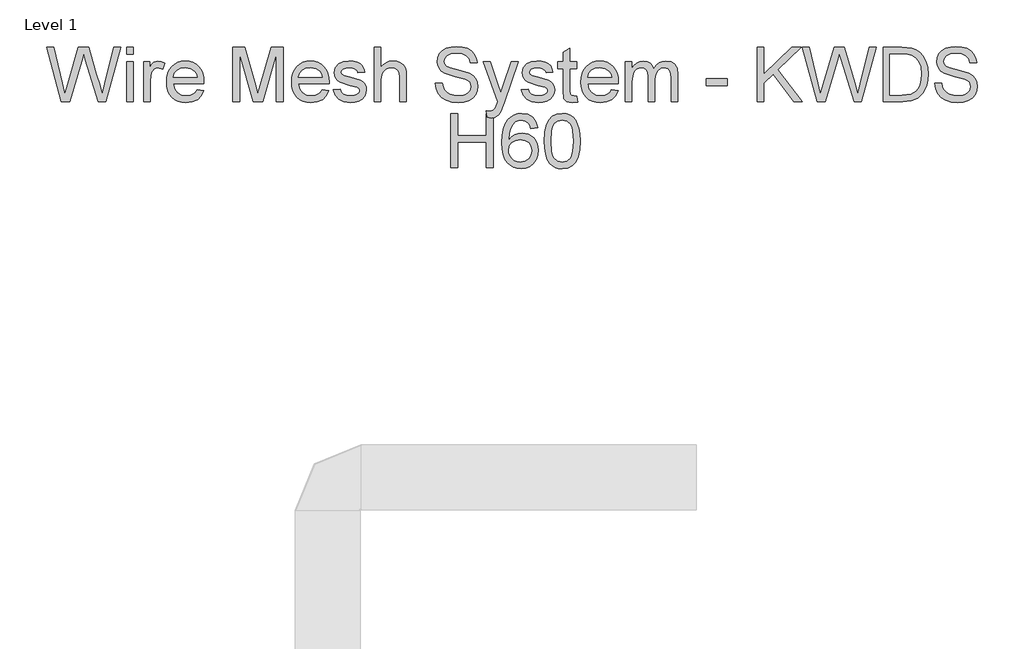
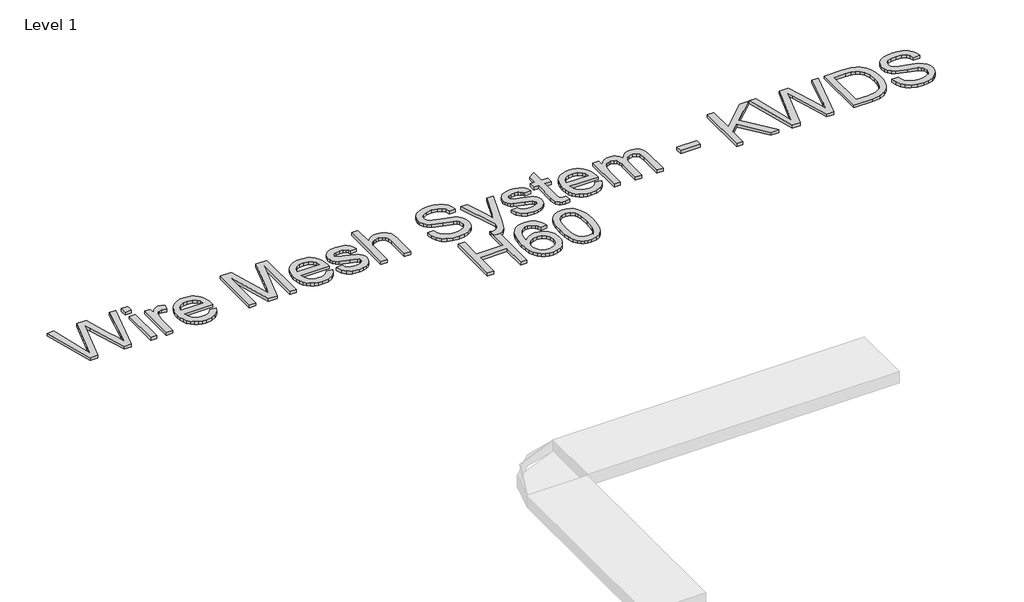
# One storey, part 24 of 32: 1 proxy.
"""IFC4 building model written with IfcOpenShell, lengths in millimetres."""

from ifc_helpers import new_model, si_unit, origin, origin_with_axes, place, context, project, spatial, polyline, outline, extrude, element, save

model = new_model("IFC4")

# Units and contexts
model_context = context("Model", 3, world=origin())
ifc_project = project(units=[si_unit("LENGTHUNIT", "METRE", prefix="MILLI")], contexts=[model_context])

# Site, building, storey
site = spatial("IfcSite", under=ifc_project)
building = spatial("IfcBuilding", under=site)
storey = spatial("IfcBuildingStorey", under=building, Name="Level 1", Elevation=0.0)

# Proxy
placement = place(None, origin())
element("IfcBuildingElementProxy", 1, Name="250mm Arial 3", ObjectType="250mm Arial 3", at=placement, inside=storey, context=model_context, shape_type="SweptSolid", body=[
    extrude(outline(polyline([(11041.5946538, 44003.1379564), (10973.107289, 44254.2787318), (11005.4809046, 44254.2787318), (11045.2121601, 44089.2223433), (11057.4748933, 44038.2706869), (11070.5960178, 44083.3362313), (11120.3827145, 44254.2787318), (11167.0424142, 44254.2787318), (11203.217477, 44130.3638131), (11218.7145061, 44084.3785637), (11230.1341763, 44038.2706869), (11242.0290275, 44087.7508153), (11282.128165, 44254.2787318), (11314.5017806, 44254.2787318), (11245.9531021, 44003.1379564), (11212.4145269, 44003.1379564), (11152.204507, 44196.8891405), (11143.8045348, 44223.9284672), (11134.3622303, 44191.3709106), (11079.4864993, 44003.1379564), (11041.5946538, 44003.1379564)])), origin_with_axes(), (0.0, 0.0, 1.0), 15.0),
    extrude(outline(polyline([(11341.9703029, 44222.8861348), (11341.9703029, 44254.2787318), (11373.3628998, 44254.2787318), (11373.3628998, 44222.8861348), (11341.9703029, 44222.8861348)])), origin_with_axes(), (0.0, 0.0, 1.0), 15.0),
    extrude(outline(polyline([(11341.9703029, 44003.1379564), (11341.9703029, 44187.5694633), (11373.3628998, 44187.5694633), (11373.3628998, 44003.1379564), (11341.9703029, 44003.1379564)])), origin_with_axes(), (0.0, 0.0, 1.0), 15.0),
    extrude(outline(polyline([(11420.4517952, 44003.1379564), (11420.4517952, 44187.5694633), (11447.9203175, 44187.5694633), (11447.9203175, 44160.284882), (11458.0677292, 44176.1038078), (11467.4180632, 44185.423485), (11487.0384363, 44191.4935379), (11502.6734211, 44189.0716481), (11518.5536606, 44181.8059787), (11508.0690237, 44153.6630061), (11485.996104, 44160.100941), (11476.6227773, 44158.5527709), (11468.2457977, 44153.9082608), (11456.9334264, 44136.7404343), (11451.8443921, 44100.0748621), (11451.8443921, 44003.1379564), (11420.4517952, 44003.1379564)])), origin_with_axes(), (0.0, 0.0, 1.0), 15.0),
    extrude(outline(polyline([(11667.3006139, 44058.075001), (11698.0800742, 44054.1509264), (11686.9899649, 44030.9590323), (11669.2933081, 44013.6225933), (11645.3886426, 44002.8160597), (11615.6745073, 43999.2138818), (11596.1959221, 44000.7678), (11578.8403225, 44005.4295547), (11563.6077087, 44013.1991458), (11550.4980805, 44024.0765733), (11539.9559621, 44037.759101), (11532.4258775, 44053.9439928), (11527.9078267, 44072.6312485), (11526.4018098, 44093.8208682), (11527.9231551, 44115.7290074), (11532.4871911, 44135.0389801), (11540.0939178, 44151.7507861), (11550.7433351, 44165.8644256), (11563.8184744, 44177.0771622), (11578.7023668, 44185.0862598), (11595.3950123, 44189.8917184), (11613.896411, 44191.4935379), (11631.8019175, 44189.8955505), (11647.9944734, 44185.1015883), (11662.4740788, 44177.1116512), (11675.2407337, 44165.9257393), (11685.6621408, 44151.8427566), (11693.1060031, 44135.1616074), (11697.5723204, 44115.8822916), (11699.0610929, 44094.0048092), (11698.8771519, 44085.5435233), (11557.7944067, 44085.5435233), (11563.2283304, 44062.0450609), (11575.8512813, 44044.7699355), (11594.0691043, 44034.1473429), (11616.2876439, 44030.6064787), (11632.9956179, 44032.2466193), (11647.0671042, 44037.1670409), (11658.5021029, 44045.6743121), (11667.3006139, 44058.075001)]), holes=[polyline([(11557.7944067, 44116.9361202), (11667.6684959, 44116.9361202), (11663.4225246, 44133.5214669), (11655.0991944, 44145.3856612), (11636.7970652, 44156.4221211), (11613.7737836, 44160.100941), (11592.6129047, 44157.1655493), (11575.1155173, 44148.359374), (11562.9524189, 44134.632777), (11557.7944067, 44116.9361202)])]), origin_with_axes(), (0.0, 0.0, 1.0), 15.0),
    extrude(outline(polyline([(11832.4796298, 44003.1379564), (11832.4796298, 44254.2787318), (11886.4969694, 44254.2787318), (11937.8778214, 44077.2661784), (11948.2398309, 44040.2940379), (11959.4602318, 44080.3318617), (12009.9826925, 44254.2787318), (12064.0000321, 44254.2787318), (12064.0000321, 44003.1379564), (12032.6074352, 44003.1379564), (12032.6074352, 44222.8861348), (11969.515673, 44003.1379564), (11926.9639889, 44003.1379564), (11863.8722267, 44222.8861348), (11863.8722267, 44003.1379564), (11832.4796298, 44003.1379564)])), origin_with_axes(), (0.0, 0.0, 1.0), 15.0),
    extrude(outline(polyline([(12244.1395824, 44058.075001), (12274.9190426, 44054.1509264), (12263.8289333, 44030.9590323), (12246.1322765, 44013.6225933), (12222.227611, 44002.8160597), (12192.5134757, 43999.2138818), (12173.0348905, 44000.7678), (12155.679291, 44005.4295547), (12140.4466771, 44013.1991458), (12127.3370489, 44024.0765733), (12116.7949305, 44037.759101), (12109.2648459, 44053.9439928), (12104.7467951, 44072.6312485), (12103.2407782, 44093.8208682), (12104.7621236, 44115.7290074), (12109.3261596, 44135.0389801), (12116.9328862, 44151.7507861), (12127.5823036, 44165.8644256), (12140.6574428, 44177.0771622), (12155.5413352, 44185.0862598), (12172.2339807, 44189.8917184), (12190.7353794, 44191.4935379), (12208.6408859, 44189.8955505), (12224.8334418, 44185.1015883), (12239.3130472, 44177.1116512), (12252.0797021, 44165.9257393), (12262.5011093, 44151.8427566), (12269.9449715, 44135.1616074), (12274.4112889, 44115.8822916), (12275.9000613, 44094.0048092), (12275.7161203, 44085.5435233), (12134.6333752, 44085.5435233), (12140.0672988, 44062.0450609), (12152.6902497, 44044.7699355), (12170.9080727, 44034.1473429), (12193.1266124, 44030.6064787), (12209.8345863, 44032.2466193), (12223.9060726, 44037.1670409), (12235.3410713, 44045.6743121), (12244.1395824, 44058.075001)]), holes=[polyline([(12134.6333752, 44116.9361202), (12244.5074644, 44116.9361202), (12240.261493, 44133.5214669), (12231.9381629, 44145.3856612), (12213.6360336, 44156.4221211), (12190.6127521, 44160.100941), (12169.4518732, 44157.1655493), (12151.9544858, 44148.359374), (12139.7913873, 44134.632777), (12134.6333752, 44116.9361202)])]), origin_with_axes(), (0.0, 0.0, 1.0), 15.0),
    extrude(outline(polyline([(12295.5204344, 44058.075001), (12326.9130313, 44061.9990756), (12331.8641098, 44048.5713828), (12341.4443701, 44038.6998826), (12355.7151258, 44032.6298297), (12374.7376907, 44030.6064787), (12393.5303293, 44032.4612171), (12406.7434243, 44038.0254323), (12414.5609166, 44046.0881793), (12417.1667474, 44055.4385134), (12414.5455882, 44063.4399468), (12406.6821106, 44069.5406565), (12374.3698087, 44078.4924517), (12327.0969723, 44093.851525), (12315.1331432, 44101.5693827), (12306.4649237, 44111.7857723), (12301.1996127, 44123.8492361), (12299.444509, 44137.1083163), (12305.0853663, 44160.4994798), (12320.4750964, 44178.3724134), (12340.4326946, 44187.6614338), (12367.4413644, 44191.4935379), (12387.8741436, 44189.9530321), (12405.6397783, 44185.3315145), (12419.9258624, 44178.0811735), (12429.9199899, 44168.6541974), (12436.5418659, 44156.3531432), (12440.7111951, 44140.4805679), (12409.3185982, 44136.5564933), (12405.3562026, 44146.4356577), (12397.5157175, 44153.8776039), (12385.7205011, 44158.5451067), (12369.8939111, 44160.100941), (12351.8676933, 44158.6140846), (12339.8502148, 44154.1535154), (12333.0903831, 44147.7155805), (12330.8371059, 44140.2966269), (12334.5772395, 44131.1608907), (12346.2881497, 44124.2324465), (12373.3274764, 44117.5492569), (12419.4046963, 44102.7726634), (12431.5754589, 44095.7062634), (12440.8031656, 44086.0340326), (12446.6202997, 44073.7253142), (12448.5593444, 44058.7494513), (12446.2830745, 44043.2677507), (12439.454265, 44028.7057551), (12428.3334988, 44016.2054314), (12413.1813592, 44006.9087468), (12394.8792299, 44001.137598), (12374.308495, 43999.2138818), (12342.655315, 44002.9233586), (12319.5553914, 44014.0517889), (12304.1350044, 44032.4765455), (12295.5204344, 44058.075001)])), origin_with_axes(), (0.0, 0.0, 1.0), 15.0),
    extrude(outline(polyline([(12483.8760159, 44003.1379564), (12483.8760159, 44254.2787318), (12515.2686128, 44254.2787318), (12515.2686128, 44161.940351), (12526.7994141, 44174.8698703), (12539.7480939, 44184.1052412), (12554.1146523, 44189.6464637), (12569.8990891, 44191.4935379), (12588.8603403, 44189.4778512), (12605.154447, 44183.4307909), (12617.9843316, 44173.8275379), (12626.5529164, 44161.1432733), (12631.3813676, 44143.7148638), (12632.9908513, 44119.8791762), (12632.9908513, 44003.1379564), (12601.5982544, 44003.1379564), (12601.5982544, 44116.6295519), (12599.0997225, 44136.2805818), (12591.6041268, 44149.7389315), (12579.5253347, 44157.5104386), (12563.2772132, 44160.100941), (12550.0104687, 44158.3535015), (12537.5561304, 44153.1111831), (12527.2401061, 44144.8798235), (12520.3883039, 44134.1652603), (12516.5485356, 44119.9251614), (12515.2686128, 44101.1171944), (12515.2686128, 44003.1379564), (12483.8760159, 44003.1379564)])), origin_with_axes(), (0.0, 0.0, 1.0), 15.0),
    extrude(outline(polyline([(12766.4093882, 44089.4675979), (12797.8019851, 44089.4675979), (12801.404163, 44072.0468526), (12807.91874, 44058.0443442), (12818.0814801, 44046.9312422), (12832.6281473, 44038.1787164), (12850.4091104, 44032.4995381), (12870.2747382, 44030.6064787), (12887.7644614, 44032.0396856), (12903.0775494, 44036.3393065), (12915.4859025, 44043.1451234), (12924.261421, 44052.0969186), (12929.4807468, 44062.3746218), (12931.220522, 44073.1581628), (12926.0088604, 44092.7478791), (12918.0687407, 44100.4963936), (12904.6717047, 44107.0033064), (12858.9623668, 44118.990128), (12809.75815, 44134.4718287), (12794.1308294, 44145.0331076), (12783.0560485, 44157.8323354), (12776.4571652, 44172.5936004), (12774.2575374, 44189.0409913), (12776.9783314, 44207.4274268), (12785.1407131, 44224.5722607), (12798.5300849, 44239.1035995), (12816.9318489, 44249.64955), (12839.020097, 44256.0644923), (12863.4689213, 44258.2028064), (12889.9564249, 44255.9648576), (12913.1329906, 44249.2510112), (12932.1708839, 44238.1992229), (12946.2423702, 44222.9474485), (12955.1481801, 44204.4460498), (12958.6890443, 44183.6453887), (12927.2964474, 44183.6453887), (12921.5329628, 44202.3767136), (12909.5154843, 44215.8963769), (12890.7381742, 44224.0817513), (12864.6951946, 44226.8102095), (12838.0390783, 44224.1124082), (12819.7522775, 44216.0190043), (12809.1756701, 44204.1088247), (12805.6501344, 44189.9606963), (12808.1486662, 44177.8972325), (12815.6442619, 44168.1943449), (12833.3639113, 44159.5184612), (12866.9024866, 44150.6586365), (12922.4526678, 44134.9010243), (12940.348594, 44123.5120109), (12952.8335893, 44109.455853), (12960.1682365, 44092.8858348), (12962.613119, 44073.9552405), (12959.8003545, 44054.6031147), (12951.3620613, 44036.4006201), (12937.6431285, 44020.7349785), (12918.9884457, 44008.9934115), (12896.5553082, 44001.6587642), (12871.5010115, 43999.2138818), (12840.7445439, 44001.8503694), (12815.4296641, 44009.7598323), (12795.2651322, 44022.9729273), (12779.9597084, 44041.5203112), (12770.1341934, 44064.1143971), (12766.4093882, 44089.4675979)])), origin_with_axes(), (0.0, 0.0, 1.0), 15.0),
    extrude(outline(polyline([(13005.7779397, 43932.5046133), (13001.8538651, 43962.7322506), (13017.7954182, 43959.9731356), (13032.694639, 43963.4373577), (13041.8303753, 43973.0942601), (13050.4142885, 43996.2095122), (13052.8668351, 44003.8124067), (12986.1575667, 44187.5694633), (13019.2669462, 44187.5694633), (13054.6449314, 44085.1756413), (13066.9689783, 44044.2181125), (13079.2930251, 44080.3931754), (13115.652029, 44187.5694633), (13148.5161539, 44187.5694633), (13084.3207457, 43998.7233725), (13067.6434286, 43957.7658437), (13059.1055006, 43944.6907044), (13049.4332698, 43935.6316103), (13038.1975406, 43930.3433066), (13024.9691171, 43928.5805387), (13005.7779397, 43932.5046133)])), origin_with_axes(), (0.0, 0.0, 1.0), 15.0),
    extrude(outline(polyline([(13162.7409243, 44058.075001), (13194.1335213, 44061.9990756), (13199.0845998, 44048.5713828), (13208.6648601, 44038.6998826), (13222.9356158, 44032.6298297), (13241.9581806, 44030.6064787), (13260.7508192, 44032.4612171), (13273.9639142, 44038.0254323), (13281.7814066, 44046.0881793), (13284.3872374, 44055.4385134), (13281.7660782, 44063.4399468), (13273.9026005, 44069.5406565), (13241.5902986, 44078.4924517), (13194.3174623, 44093.851525), (13182.3536332, 44101.5693827), (13173.6854137, 44111.7857723), (13168.4201026, 44123.8492361), (13166.664999, 44137.1083163), (13172.3058562, 44160.4994798), (13187.6955863, 44178.3724134), (13207.6531846, 44187.6614338), (13234.6618544, 44191.4935379), (13255.0946335, 44189.9530321), (13272.8602682, 44185.3315145), (13287.1463524, 44178.0811735), (13297.1404799, 44168.6541974), (13303.7623558, 44156.3531432), (13307.9316851, 44140.4805679), (13276.5390882, 44136.5564933), (13272.5766925, 44146.4356577), (13264.7362075, 44153.8776039), (13252.940991, 44158.5451067), (13237.114401, 44160.100941), (13219.0881833, 44158.6140846), (13207.0707048, 44154.1535154), (13200.3108731, 44147.7155805), (13198.0575959, 44140.2966269), (13201.7977295, 44131.1608907), (13213.5086397, 44124.2324465), (13240.5479663, 44117.5492569), (13286.6251862, 44102.7726634), (13298.7959489, 44095.7062634), (13308.0236556, 44086.0340326), (13313.8407897, 44073.7253142), (13315.7798343, 44058.7494513), (13313.5035645, 44043.2677507), (13306.674755, 44028.7057551), (13295.5539888, 44016.2054314), (13280.4018491, 44006.9087468), (13262.0997199, 44001.137598), (13241.528985, 43999.2138818), (13209.875805, 44002.9233586), (13186.7758814, 44014.0517889), (13171.3554944, 44032.4765455), (13162.7409243, 44058.075001)])), origin_with_axes(), (0.0, 0.0, 1.0), 15.0),
    extrude(outline(polyline([(13417.8057743, 44029.3188917), (13421.7298489, 44002.2182514), (13398.2467149, 43999.2138818), (13383.1788815, 44000.5167972), (13371.9431523, 44004.4255434), (13358.8220278, 44018.0984909), (13355.0205805, 44053.7217307), (13355.0205805, 44156.1768664), (13331.4761328, 44156.1768664), (13331.4761328, 44187.5694633), (13355.0205805, 44187.5694633), (13355.0205805, 44232.3897531), (13386.4131774, 44250.8451665), (13386.4131774, 44187.5694633), (13417.8057743, 44187.5694633), (13417.8057743, 44156.1768664), (13386.4131774, 44156.1768664), (13386.4131774, 44054.6414357), (13388.0686464, 44038.4546279), (13393.4335921, 44032.7218002), (13404.1328268, 44030.6064787), (13417.8057743, 44029.3188917)])), origin_with_axes(), (0.0, 0.0, 1.0), 15.0),
    extrude(outline(polyline([(13578.3249516, 44058.075001), (13609.1044118, 44054.1509264), (13598.0143025, 44030.9590323), (13580.3176457, 44013.6225933), (13556.4129802, 44002.8160597), (13526.6988449, 43999.2138818), (13507.2202597, 44000.7678), (13489.8646601, 44005.4295547), (13474.6320463, 44013.1991458), (13461.5224181, 44024.0765733), (13450.9802997, 44037.759101), (13443.4502151, 44053.9439928), (13438.9321643, 44072.6312485), (13437.4261474, 44093.8208682), (13438.9474927, 44115.7290074), (13443.5115287, 44135.0389801), (13451.1182554, 44151.7507861), (13461.7676728, 44165.8644256), (13474.842812, 44177.0771622), (13489.7267044, 44185.0862598), (13506.4193499, 44189.8917184), (13524.9207486, 44191.4935379), (13542.8262551, 44189.8955505), (13559.018811, 44185.1015883), (13573.4984164, 44177.1116512), (13586.2650713, 44165.9257393), (13596.6864784, 44151.8427566), (13604.1303407, 44135.1616074), (13608.596658, 44115.8822916), (13610.0854305, 44094.0048092), (13609.9014895, 44085.5435233), (13468.8187443, 44085.5435233), (13474.252668, 44062.0450609), (13486.8756189, 44044.7699355), (13505.0934419, 44034.1473429), (13527.3119816, 44030.6064787), (13544.0199555, 44032.2466193), (13558.0914418, 44037.1670409), (13569.5264405, 44045.6743121), (13578.3249516, 44058.075001)]), holes=[polyline([(13468.8187443, 44116.9361202), (13578.6928336, 44116.9361202), (13574.4468622, 44133.5214669), (13566.1235321, 44145.3856612), (13547.8214028, 44156.4221211), (13524.7981213, 44160.100941), (13503.6372423, 44157.1655493), (13486.1398549, 44148.359374), (13473.9767565, 44134.632777), (13468.8187443, 44116.9361202)])]), origin_with_axes(), (0.0, 0.0, 1.0), 15.0),
    extrude(outline(polyline([(13641.4780274, 44003.1379564), (13641.4780274, 44187.5694633), (13672.8706243, 44187.5694633), (13672.8706243, 44157.2191987), (13682.3129289, 44171.1603935), (13694.4530347, 44182.0818902), (13708.8770746, 44189.140626), (13725.1711813, 44191.4935379), (13742.6302477, 44189.0946407), (13756.6250919, 44181.8979492), (13767.0790719, 44170.3786442), (13773.9155457, 44155.0119067), (13785.3582086, 44170.9726204), (13798.4103552, 44182.3731301), (13813.0719855, 44189.213436), (13829.3430996, 44191.4935379), (13852.9411967, 44187.6997549), (13870.3925989, 44176.3184056), (13881.1761399, 44157.0429219), (13884.7706535, 44129.5667354), (13884.7706535, 44003.1379564), (13853.3780566, 44003.1379564), (13853.3780566, 44116.0777289), (13850.4656575, 44142.2893211), (13839.919707, 44155.1958477), (13821.9854597, 44160.100941), (13804.9785816, 44156.9586156), (13791.1140289, 44147.5316395), (13781.8939864, 44131.1762191), (13778.8206389, 44107.248561), (13778.8206389, 44003.1379564), (13747.428042, 44003.1379564), (13747.428042, 44119.5726079), (13745.6116247, 44137.3229141), (13740.1623726, 44149.9841861), (13730.5744481, 44157.5717523), (13716.3420134, 44160.100941), (13704.2478928, 44158.4148152), (13693.1041341, 44153.3564378), (13683.9070842, 44145.048436), (13677.6530903, 44133.6134374), (13672.8706243, 44096.1507875), (13672.8706243, 44003.1379564), (13641.4780274, 44003.1379564)])), origin_with_axes(), (0.0, 0.0, 1.0), 15.0),
    extrude(outline(polyline([(14014.2651158, 44077.6953741), (14014.2651158, 44109.087971), (14112.3669812, 44109.087971), (14112.3669812, 44077.6953741), (14014.2651158, 44077.6953741)])), origin_with_axes(), (0.0, 0.0, 1.0), 15.0),
    extrude(outline(polyline([(14526.1729121, 44003.1379564), (14457.6855474, 44254.2787318), (14490.0591629, 44254.2787318), (14529.7904184, 44089.2223433), (14542.0531516, 44038.2706869), (14555.1742761, 44083.3362313), (14604.9609728, 44254.2787318), (14651.6206725, 44254.2787318), (14687.7957353, 44130.3638131), (14703.2927644, 44084.3785637), (14714.7124347, 44038.2706869), (14726.6072858, 44087.7508153), (14766.7064233, 44254.2787318), (14799.0800389, 44254.2787318), (14730.5313605, 44003.1379564), (14696.9927852, 44003.1379564), (14636.7827653, 44196.8891405), (14628.3827931, 44223.9284672), (14618.9404886, 44191.3709106), (14564.0647576, 44003.1379564), (14526.1729121, 44003.1379564)])), origin_with_axes(), (0.0, 0.0, 1.0), 15.0),
    extrude(outline(polyline([(14249.7095928, 44003.1379564), (14249.7095928, 44254.2787318), (14281.1021897, 44254.2787318), (14281.1021897, 44131.3448317), (14409.860888, 44254.2787318), (14453.7614727, 44254.2787318), (14345.6654798, 44151.0265185), (14457.6855474, 44003.1379564), (14419.3031925, 44003.1379564), (14323.4086191, 44129.8119901), (14281.1021897, 44089.4675979), (14281.1021897, 44003.1379564), (14249.7095928, 44003.1379564)])), origin_with_axes(), (0.0, 0.0, 1.0), 15.0),
    extrude(outline(polyline([(14830.4726358, 44003.1379564), (14830.4726358, 44254.2787318), (14917.1088457, 44254.2787318), (14961.9291354, 44250.6612255), (14981.9480473, 44243.686796), (14998.8399623, 44232.6963214), (15016.2070581, 44213.5664576), (15028.5770902, 44189.7767553), (15035.9807154, 44161.7870668), (15038.4485904, 44130.0572447), (15036.777793, 44103.1022244), (15031.7654008, 44079.3814999), (15024.1318494, 44059.1863112), (15014.5975744, 44042.8078982), (14991.6662634, 44020.0298713), (14961.6532239, 44007.429913), (14921.278175, 44003.1379564), (14830.4726358, 44003.1379564)]), holes=[polyline([(14861.8652327, 44034.5305533), (14917.415414, 44034.5305533), (14957.8211198, 44039.0677646), (14981.1203128, 44051.8823208), (14992.0264811, 44065.470962), (15000.2195197, 44083.0603198), (15005.3468751, 44104.7270365), (15007.0559935, 44130.5477541), (15003.7067345, 44164.7607796), (14993.6589575, 44190.0220099), (14978.8133862, 44207.3737774), (14961.0707441, 44217.8584142), (14943.0138695, 44221.6292047), (14916.5570227, 44222.8861348), (14861.8652327, 44222.8861348), (14861.8652327, 44034.5305533)])]), origin_with_axes(), (0.0, 0.0, 1.0), 15.0),
    extrude(outline(polyline([(15069.8411873, 44089.4675979), (15101.2337843, 44089.4675979), (15104.8359621, 44072.0468526), (15111.3505391, 44058.0443442), (15121.5132792, 44046.9312422), (15136.0599465, 44038.1787164), (15153.8409096, 44032.4995381), (15173.7065373, 44030.6064787), (15191.1962605, 44032.0396856), (15206.5093485, 44036.3393065), (15218.9177017, 44043.1451234), (15227.6932201, 44052.0969186), (15232.9125459, 44062.3746218), (15234.6523212, 44073.1581628), (15229.4406596, 44092.7478791), (15221.5005398, 44100.4963936), (15208.1035039, 44107.0033064), (15162.394166, 44118.990128), (15113.1899491, 44134.4718287), (15097.5626285, 44145.0331076), (15086.4878476, 44157.8323354), (15079.8889643, 44172.5936004), (15077.6893366, 44189.0409913), (15080.4101305, 44207.4274268), (15088.5725123, 44224.5722607), (15101.961884, 44239.1035995), (15120.363648, 44249.64955), (15142.4518961, 44256.0644923), (15166.9007204, 44258.2028064), (15193.3882241, 44255.9648576), (15216.5647897, 44249.2510112), (15235.602683, 44238.1992229), (15249.6741693, 44222.9474485), (15258.5799793, 44204.4460498), (15262.1208435, 44183.6453887), (15230.7282466, 44183.6453887), (15224.964762, 44202.3767136), (15212.9472835, 44215.8963769), (15194.1699733, 44224.0817513), (15168.1269937, 44226.8102095), (15141.4708775, 44224.1124082), (15123.1840766, 44216.0190043), (15112.6074693, 44204.1088247), (15109.0819335, 44189.9606963), (15111.5804654, 44177.8972325), (15119.076061, 44168.1943449), (15136.7957105, 44159.5184612), (15170.3342857, 44150.6586365), (15225.884467, 44134.9010243), (15243.7803932, 44123.5120109), (15256.2653884, 44109.455853), (15263.6000357, 44092.8858348), (15266.0449181, 44073.9552405), (15263.2321537, 44054.6031147), (15254.7938604, 44036.4006201), (15241.0749277, 44020.7349785), (15222.4202448, 44008.9934115), (15199.9871073, 44001.6587642), (15174.9328106, 43999.2138818), (15144.176343, 44001.8503694), (15118.8614632, 44009.7598323), (15098.6969313, 44022.9729273), (15083.3915075, 44041.5203112), (15073.5659925, 44064.1143971), (15069.8411873, 44089.4675979)])), origin_with_axes(), (0.0, 0.0, 1.0), 15.0),
    extrude(outline(polyline([(12837.0427313, 43698.2009118), (12837.0427313, 43949.3416872), (12868.4353282, 43949.3416872), (12868.4353282, 43847.3157472), (13001.8538651, 43847.3157472), (13001.8538651, 43949.3416872), (13033.246462, 43949.3416872), (13033.246462, 43698.2009118), (13001.8538651, 43698.2009118), (13001.8538651, 43815.9231502), (12868.4353282, 43815.9231502), (12868.4353282, 43698.2009118), (12837.0427313, 43698.2009118)])), origin_with_axes(), (0.0, 0.0, 1.0), 15.0),
    extrude(outline(polyline([(13237.298342, 43882.6324187), (13205.9057451, 43878.7083441), (13200.8473677, 43894.2666868), (13194.0108939, 43904.8892794), (13179.770795, 43914.6841375), (13162.5569833, 43917.9490902), (13147.9643309, 43916.0483666), (13134.2300697, 43910.3461957), (13122.4348532, 43898.3363814), (13112.8009435, 43881.8046842), (13106.2940307, 43858.4211849), (13103.8798051, 43825.8559641), (13116.4720992, 43840.5482513), (13131.5629252, 43850.9025966), (13148.3092202, 43857.0416274), (13165.8679213, 43859.087971), (13194.8692853, 43853.493099), (13219.2108106, 43836.708483), (13228.8408882, 43824.7025008), (13235.7195151, 43811.0640422), (13241.2224166, 43778.8896961), (13238.6319143, 43756.4105733), (13230.8604071, 43735.5715911), (13218.5516887, 43717.8979269), (13202.3495525, 43704.9147582), (13182.9897625, 43696.9363174), (13161.2080827, 43694.2768372), (13142.4940022, 43696.0396051), (13125.592507, 43701.3279087), (13110.5035971, 43710.1417482), (13097.2272724, 43722.4811235), (13086.4034943, 43738.8672007), (13078.6722242, 43759.821146), (13074.0334622, 43785.3429594), (13072.4872082, 43815.4326409), (13074.2039908, 43849.1666534), (13079.3543388, 43877.9572517), (13087.938252, 43901.8044356), (13099.9557305, 43920.7082052), (13112.9810524, 43933.2353536), (13128.0833747, 43942.1833167), (13145.2626975, 43947.5520945), (13164.5190207, 43949.3416872), (13192.064185, 43944.9117748), (13214.1217763, 43931.6220377), (13229.5728201, 43910.5148082), (13237.298342, 43882.6324187)]), holes=[polyline([(13103.8798051, 43779.3802054), (13105.6962225, 43765.4696674), (13111.1454745, 43752.1875946), (13119.6067604, 43740.7679243), (13130.4592793, 43732.4445942), (13143.5574111, 43727.3632241), (13158.7555361, 43725.6694341), (13179.4718909, 43729.1796415), (13195.7583334, 43739.7102636), (13206.3119481, 43756.2649534), (13209.8298197, 43777.8473637), (13206.3579334, 43798.5637186), (13195.9422744, 43814.3596518), (13179.3799204, 43824.3614435), (13157.4679491, 43827.6953741), (13136.7822511, 43824.3614435), (13119.4841331, 43814.3596518), (13107.7808871, 43798.946929), (13103.8798051, 43779.3802054)])]), origin_with_axes(), (0.0, 0.0, 1.0), 15.0),
    extrude(outline(polyline([(13268.690939, 43821.7479485), (13270.9978656, 43861.9467207), (13277.9186457, 43894.0061037), (13289.3843012, 43918.4166069), (13305.3258543, 43935.6687397), (13325.8582682, 43945.9234503), (13351.0965059, 43949.3416872), (13370.4409675, 43947.3183362), (13387.7620781, 43941.2482833), (13402.2474316, 43931.3691189), (13413.0846221, 43917.9184334), (13427.7999019, 43880.7623519), (13432.0765301, 43855.0489333), (13433.5020728, 43821.7479485), (13431.2181387, 43781.7791026), (13424.3663366, 43749.7963616), (13412.9696589, 43725.3628658), (13397.0510984, 43708.0417552), (13376.4726993, 43697.7180667), (13351.0965059, 43694.2768372), (13333.8060521, 43695.7713578), (13318.4776356, 43700.2549196), (13305.1112565, 43707.7275226), (13293.7069146, 43718.1891669), (13282.7624253, 43737.1006007), (13274.9449329, 43760.6642089), (13270.2544374, 43788.8799915), (13268.690939, 43821.7479485)]), holes=[polyline([(13300.0835359, 43821.8092622), (13303.7623558, 43772.4287685), (13308.3608808, 43755.5387696), (13314.7988157, 43743.848936), (13331.2308781, 43730.2143096), (13351.0965059, 43725.6694341), (13370.9621336, 43730.229638), (13387.3941961, 43743.9102497), (13393.832131, 43755.6192438), (13398.4306559, 43772.5054106), (13402.1094759, 43821.8092622), (13398.5532832, 43870.0784456), (13394.1080425, 43886.912879), (13387.8847054, 43898.8805402), (13371.4832998, 43913.1819527), (13350.7286239, 43917.9490902), (13331.077594, 43913.7491041), (13315.289325, 43901.1491458), (13308.6367923, 43888.1199918), (13303.8849832, 43870.5536265), (13300.0835359, 43821.8092622)])]), origin_with_axes(), (0.0, 0.0, 1.0), 15.0),
])

save(model, "model.ifc")
